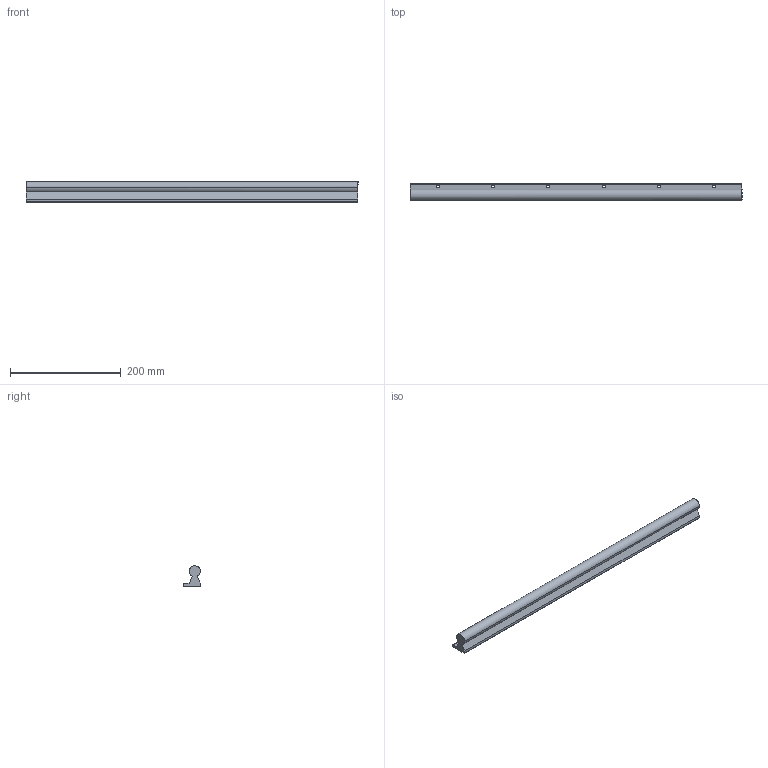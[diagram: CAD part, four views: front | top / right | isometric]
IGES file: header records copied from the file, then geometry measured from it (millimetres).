
Global section: file name: No Iges File Name specified; native system: AutoDesk Inventor R10; preprocessor: AutoDesk Inventor Iges Exporter R10; author: No Author specified; organization: No Organization specified; date: 20101221.090446; units: millimetre
Bounding box: 600 x 30 x 37 mm (x, y, z)
Surface area: 82097.4 mm2 (no closed solid volume)
Topology: 0 solids, 0 shells, 125 faces, 814 edges, 802 vertices
Faces by surface type: bspline 125
